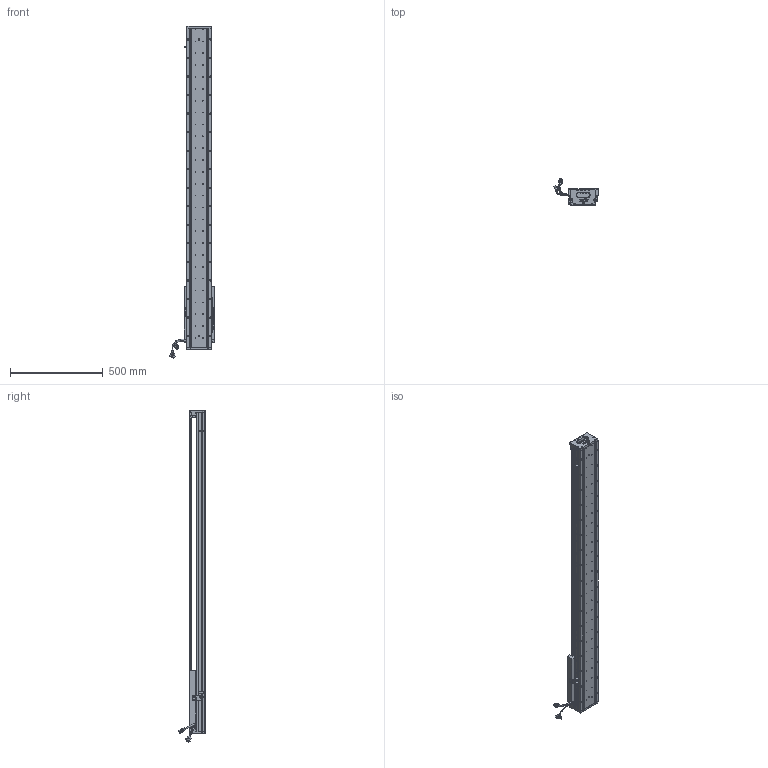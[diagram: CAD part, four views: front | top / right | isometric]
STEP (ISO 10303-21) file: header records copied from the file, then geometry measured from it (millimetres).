
FILE_DESCRIPTION (( 'STEP AP203' ), '1' );
FILE_NAME ('Z4-RY140D-1-L500-B-K.SLDASM_1350.step', '2021-05-17T08:16:21', ( '盈信电脑' ), ( '东莞市道滘镇水果街19号' ), 'SwSTEP 2.0', 'SolidWorks 2016', '' );
FILE_SCHEMA (( 'CONFIG_CONTROL_DESIGN' ));
Length unit declared in the file: millimetre
Products named in the file (36): SCREW-M1.7; SCREW-M1.6-3; 榋妏寠巭燃_暯_M2_2; SEAL-Part-1; 詩湍狟揤裔; LABEL-Part-1; Z4-RY140圉猾敕臏賑輸(21遴); 140雄赽晤鎢ん堤盄; Z4-RY140-L500詩湍100mm遵_1350; 覜茼ん672; 080黍杅芛假蚾釱21遴; SEAL; COVER; SCREW-M1.6-1; SCALE-Part-2; COVER-Part-1; SCALE-Part-1; SCREW-M1.6-2; Z-RY140感应器672光电感应片; PBU_SHEET; Z4-RY140-L500直线电机模组底座_1350; 140蚥薯蝶輸; HOLDER0; SCALE; 140-Z-臏賑輸盄裔(21遴); LABEL; PSLH080_PSLF2; SCREW-M1.6; SHIELDPLATE; Z-140詩湍傷裔啣; HARNESS-Part-1; HARNESS; HARNESS-Part-2; SCREW-M1.7-1; 詩湍奻揤裔; Z4-RY140D-1-L500-B-K.SLDASM_1350
Assembly tree (41 placements, depth 4):
  Z4-RY140D-1-L500-B-K.SLDASM_1350
    Z4-RY140-L500直线电机模组底座_1350
    Z-RY140感应器672光电感应片
    Z4-RY140圉猾敕臏賑輸(21遴)
    覜茼ん672  x3
    Z4-RY140-L500詩湍100mm遵_1350
    PSLH080_PSLF2
      SCALE
        SCALE-Part-1
        SCALE-Part-2
      HARNESS
        HARNESS-Part-1
        HARNESS-Part-2
      LABEL
        LABEL-Part-1
      COVER
        COVER-Part-1
      SEAL
        SEAL-Part-1
      榋妏寠巭燃_暯_M2_2
      SHIELDPLATE
      SCREW-M1.7
      SCREW-M1.7-1
      PBU_SHEET
      SCREW-M1.6
      SCREW-M1.6-1
      SCREW-M1.6-2
      SCREW-M1.6-3
      HOLDER0
    080黍杅芛假蚾釱21遴
    140-Z-臏賑輸盄裔(21遴)
    Z-140詩湍傷裔啣  x2
    詩湍狟揤裔  x2
    詩湍奻揤裔  x2
    140蚥薯蝶輸  x2
    140雄赽晤鎢ん堤盄
Bounding box: 239.83 x 143.88 x 1790.87 mm (x, y, z)
Volume: 6267268.9 mm3; surface area: 1605230.7 mm2
Topology: 36 solids, 36 shells, 3490 faces, 9352 edges, 5921 vertices
Faces by surface type: cylinder 1778, plane 1244, cone 346, torus 69, bspline 53
Entity records: 106724 total; most frequent: CARTESIAN_POINT 28643, ORIENTED_EDGE 15736, DIRECTION 15048, EDGE_CURVE 7868, AXIS2_PLACEMENT_3D 5574, VERTEX_POINT 5089, VECTOR 3900, LINE 3900
